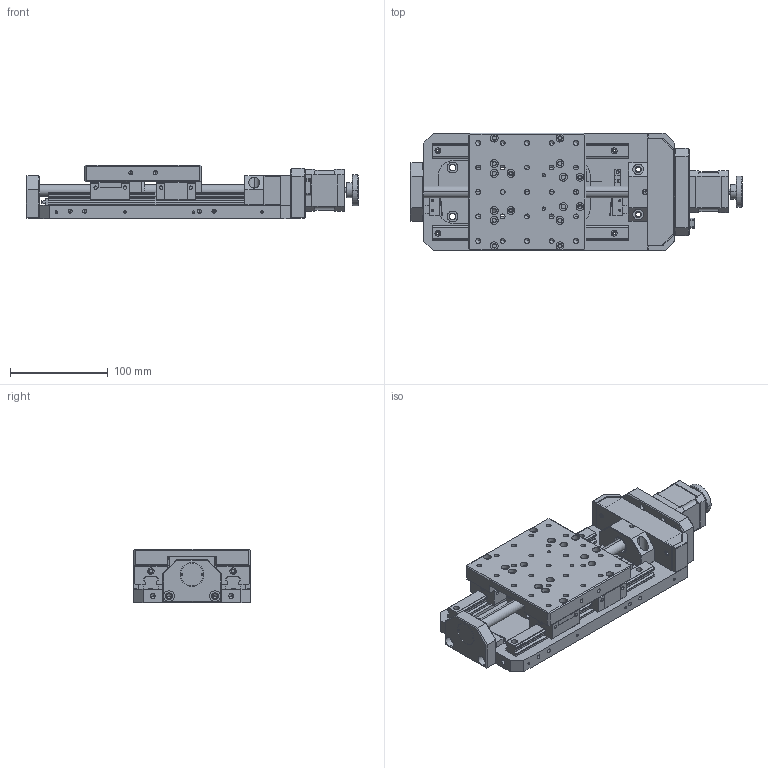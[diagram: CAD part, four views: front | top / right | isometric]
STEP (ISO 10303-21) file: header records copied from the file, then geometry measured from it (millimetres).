
FILE_DESCRIPTION (( 'STEP AP214' ), '1' );
FILE_NAME ('PT-GD140G(50).STEP', '2022-09-18T02:21:19', ( '' ), ( '' ), 'SwSTEP 2.0', 'SolidWorks 2017', '' );
FILE_SCHEMA (( 'AUTOMOTIVE_DESIGN' ));
Length unit declared in the file: millimetre
Products named in the file (1): PT-GD140G(50)
Bounding box: 339 x 120 x 55 mm (x, y, z)
Volume: 992497.3 mm3; surface area: 303822.8 mm2
Topology: 32 solids, 32 shells, 2233 faces, 5996 edges, 3744 vertices
Faces by surface type: plane 924, cylinder 861, cone 218, bspline 214, torus 16
Entity records: 88825 total; most frequent: CARTESIAN_POINT 20183, ORIENTED_EDGE 11470, DIRECTION 11261, EDGE_CURVE 5735, AXIS2_PLACEMENT_3D 4078, VERTEX_POINT 3739, VECTOR 3105, LINE 3105
